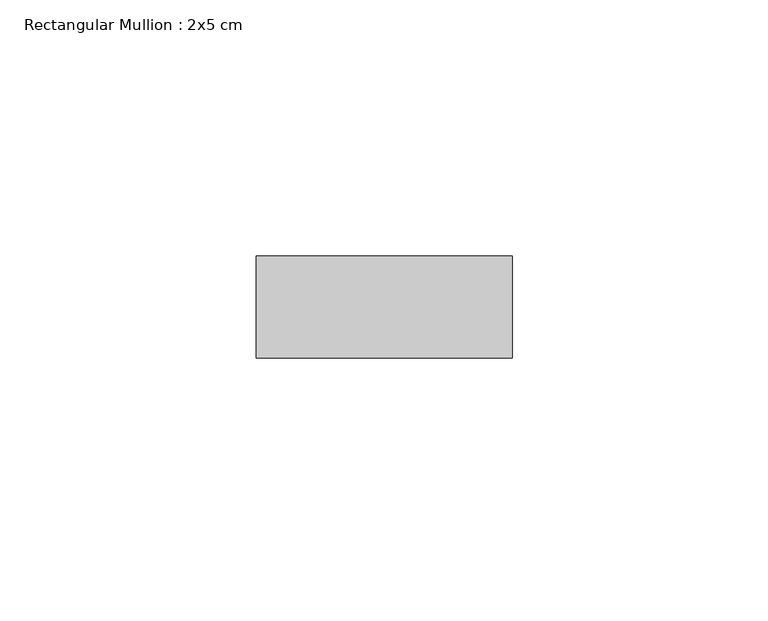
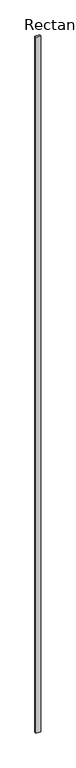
"""IFC4 building model written with IfcOpenShell, lengths in millimetres: member geometry, Rectangular Mullion : 2x5 cm."""

from ifc_helpers import new_model, si_unit, frame, origin, place, context, project, spatial, polyline, outline, extrude, source, transform, mapped, element, save


def rectangular_mullion_2x5_cm_5271909e(model_context):
    return source(origin(), model_context, "Body", "SweptSolid", [
        extrude(outline(polyline([(50.0, 20.0), (50.0, 0.0), (0.0, 0.0), (0.0, 20.0), (50.0, 20.0)])), frame((0.0, 0.0, -7859.5896192), z_axis=(0.0, 0.0, 1.0), x_axis=(1.0, 0.0, 0.0)), (0.0, 0.0, 1.0), 7859.5896192),
    ])


if __name__ == "__main__":
    model = new_model("IFC4")
    model_context = context("Model", 3, world=origin())
    ifc_project = project(units=[si_unit("LENGTHUNIT", "METRE", prefix="MILLI")], contexts=[model_context])
    site = spatial("IfcSite", under=ifc_project)
    building = spatial("IfcBuilding", under=site)
    placement = place(None, origin())
    rectangular_mullion_2x5_cm_shape = rectangular_mullion_2x5_cm_5271909e(model_context)
    element("IfcMember", 1, ObjectType="Rectangular Mullion : 2x5 cm", at=placement, inside=building, context=model_context, shape_type="MappedRepresentation", body=[
        mapped(rectangular_mullion_2x5_cm_shape, transform((0.0, 0.0, 0.0), x_axis=(1.0, 0.0, 0.0), y_axis=(0.0, 1.0, 0.0), z_axis=(0.0, 0.0, 1.0))),
    ])
    save(model, "model.ifc")
